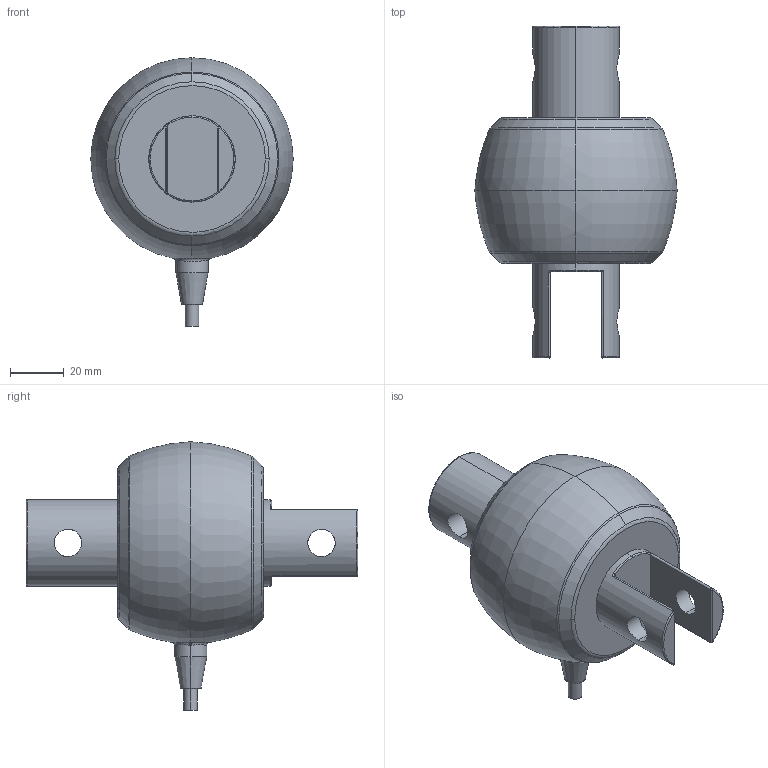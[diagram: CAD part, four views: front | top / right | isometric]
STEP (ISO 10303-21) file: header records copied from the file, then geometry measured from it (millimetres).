
FILE_DESCRIPTION (( 'STEP AP203' ), '1' );
FILE_NAME ('3D_TWS1.STEP', '2022-01-14T02:20:39', ( '' ), ( '' ), 'SwSTEP 2.0', 'SolidWorks 2015', '' );
FILE_SCHEMA (( 'CONFIG_CONTROL_DESIGN' ));
Length unit declared in the file: millimetre
Products named in the file (1): 3D_TWS1
Bounding box: 75 x 123 x 99.5 mm (x, y, z)
Volume: 241139.8 mm3; surface area: 38661.6 mm2
Topology: 5 solids, 5 shells, 81 faces, 194 edges, 120 vertices
Faces by surface type: torus 23, cylinder 23, plane 17, bspline 8, cone 6, sphere 4
Entity records: 4212 total; most frequent: CARTESIAN_POINT 2288, DIRECTION 403, ORIENTED_EDGE 380, EDGE_CURVE 190, AXIS2_PLACEMENT_3D 181, VERTEX_POINT 120, CIRCLE 107, EDGE_LOOP 88
